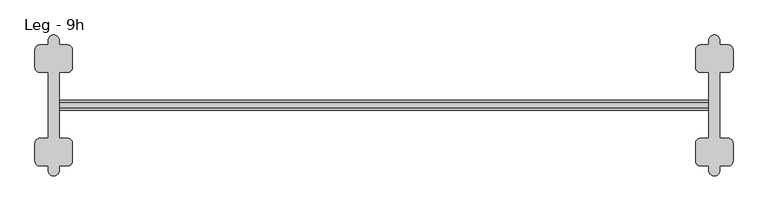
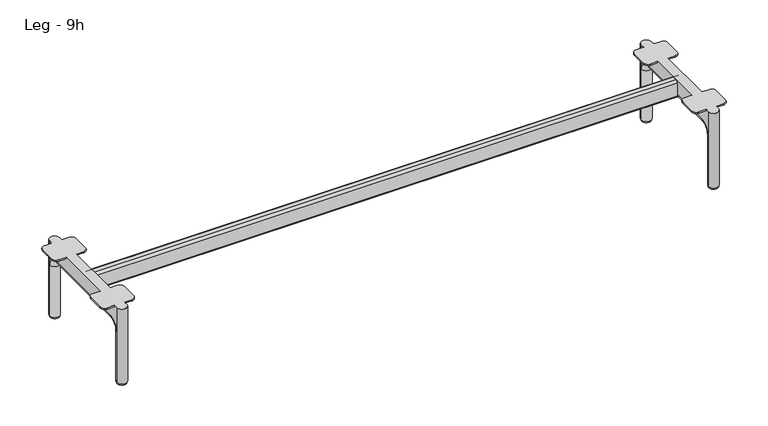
"""IFC4 building model written with IfcOpenShell, lengths in millimetres: furniture geometry, Haworth_BeHold_Leg_Single : Leg - 9h."""

from ifc_helpers import new_model, si_unit, point, frame, frame_2d, origin, origin_with_axes, place, context, project, spatial, polyline, circle_curve, ellipse_curve, trimmed, segment, composite_curve, outline, extrude, source, transform, mapped, element, save
from ifc_brep_helpers import plane_surface, cylinder_surface, revolved_surface, advanced_brep


def leg_9h_4d6a7ffd(model_context):
    return source(origin(), model_context, "Body", "SolidModel", [
        advanced_brep(
        [(-980.7716553, -160.8335954, 188.9677867), (-980.7716553, -127.4960938, 155.6302867), (-980.7716553, -127.4960938, 228.6), (-980.7716553, -138.6085938, 228.6), (-980.7716553, -138.6085938, 224.63125), (-980.7716553, -208.4885295, 224.63125), (-980.7716553, -208.4885295, 228.6), (-980.7716553, -375.7114705, 228.6), (-980.7716553, -375.7114705, 224.63125), (-980.7716553, -445.5914063, 224.63125), (-980.7716553, -445.5914063, 228.6), (-980.7716553, -456.7039063, 228.6), (-980.7716553, -456.7039063, 155.6302867), (-980.7716553, -423.3664063, 188.9677867), (-1009.3466553, -127.4960938, 155.6302867), (-1009.3466553, -160.8335937, 188.9677867), (-1009.3466553, -423.3664063, 188.9677867), (-1009.3466553, -456.7039062, 155.6302867), (-1009.3466553, -456.7039063, 228.6), (-1009.3466553, -445.5914063, 228.6), (-1009.3466553, -445.5914063, 224.63125), (-1009.3466553, -375.7114705, 224.63125), (-1009.3466553, -375.7114705, 228.6), (-1009.3466553, -208.4885295, 228.6), (-1009.3466553, -208.4885295, 224.63125), (-1009.3466553, -138.6085938, 224.63125), (-1009.3466553, -138.6085938, 228.6), (-1009.3466553, -127.4960938, 228.6), (-960.1341553, -445.5914063, 228.6), (-947.4341553, -432.8914063, 228.6), (-947.4341553, -388.5860932, 228.6), (-960.3087781, -375.7114705, 228.6), (-960.3087781, -208.4885295, 228.6), (-947.4341553, -195.6139068, 228.6), (-947.4341553, -151.3085938, 228.6), (-960.1341553, -138.6085938, 228.6), (-1029.9841553, -138.6085938, 228.6), (-1042.6841553, -151.3085938, 228.6), (-1042.6841553, -195.6139068, 228.6), (-1029.8095326, -208.4885295, 228.6), (-1029.8095326, -375.7114705, 228.6), (-1042.6841553, -388.5860932, 228.6), (-1042.6841553, -432.8914063, 228.6), (-1029.9841553, -445.5914063, 228.6), (-980.7716553, -127.4960937, 4.7625), (-1009.3466553, -127.4960937, 4.7625), (-1009.3466553, -456.7039062, 4.7625), (-980.7716553, -456.7039062, 4.7625), (-1029.9841553, -445.5914063, 224.63125), (-1042.6841553, -432.8914063, 224.63125), (-1042.6841553, -388.5860932, 224.63125), (-1029.8095326, -375.7114705, 224.63125), (-960.3087781, -375.7114705, 224.63125), (-947.4341553, -388.5860932, 224.63125), (-947.4341553, -432.8914063, 224.63125), (-960.1341553, -445.5914063, 224.63125), (-960.1341553, -138.6085938, 224.63125), (-947.4341553, -151.3085938, 224.63125), (-947.4341553, -195.6139068, 224.63125), (-960.3087781, -208.4885295, 224.63125), (-1029.8095326, -208.4885295, 224.63125), (-1042.6841553, -195.6139068, 224.63125), (-1042.6841553, -151.3085938, 224.63125), (-1029.9841553, -138.6085938, 224.63125)],
        [
            (0, 1, circle_curve(frame((-980.7716553, -160.8335937, 155.6302867), z_axis=(-1.0, 0.0, 0.0), x_axis=(0.0, 1.0, 0.0)), 33.3375)),
            (1, 2),
            (2, 3),
            (3, 4),
            (4, 5),
            (5, 6),
            (6, 7),
            (7, 8),
            (8, 9),
            (9, 10),
            (10, 11),
            (11, 12),
            (12, 13, circle_curve(frame((-980.7716553, -423.3664063, 155.6302867), z_axis=(-1.0, 0.0, 0.0), x_axis=(0.0, 0.0, 1.0)), 33.3375)),
            (13, 0),
            (14, 15, circle_curve(frame((-1009.3466553, -160.8335937, 155.6302867), z_axis=(1.0, 0.0, 0.0), x_axis=(0.0, 1.0, 0.0)), 33.3375)),
            (15, 16),
            (16, 17, circle_curve(frame((-1009.3466553, -423.3664063, 155.6302867), z_axis=(1.0, 0.0, 0.0), x_axis=(0.0, 0.0, 1.0)), 33.3375)),
            (17, 18),
            (18, 19),
            (19, 20),
            (20, 21),
            (21, 22),
            (22, 23),
            (23, 24),
            (24, 25),
            (25, 26),
            (26, 27),
            (27, 14),
            (28, 29, circle_curve(frame((-960.1341553, -432.8914063, 228.6), z_axis=(0.0, 0.0, 1.0), x_axis=(1.0, 0.0, 0.0)), 12.7)),
            (29, 30),
            (30, 31, circle_curve(frame((-960.3087781, -388.5860932, 228.6), z_axis=(0.0, 0.0, 1.0), x_axis=(1.0, 0.0, 0.0)), 12.8746227)),
            (31, 7),
            (6, 32),
            (32, 33, circle_curve(frame((-960.3087781, -195.6139068, 228.6), z_axis=(0.0, 0.0, 1.0), x_axis=(1.0, 0.0, 0.0)), 12.8746227)),
            (33, 34),
            (34, 35, circle_curve(frame((-960.1341553, -151.3085938, 228.6), z_axis=(0.0, 0.0, 1.0), x_axis=(1.0, 0.0, 0.0)), 12.7)),
            (35, 3),
            (2, 27, circle_curve(frame((-995.0591553, -127.4960938, 228.6), z_axis=(0.0, 0.0, 1.0), x_axis=(1.0, 0.0, 0.0)), 14.2875)),
            (26, 36),
            (36, 37, circle_curve(frame((-1029.9841553, -151.3085938, 228.6), z_axis=(0.0, 0.0, 1.0), x_axis=(1.0, 0.0, 0.0)), 12.7)),
            (37, 38),
            (38, 39, circle_curve(frame((-1029.8095326, -195.6139068, 228.6), z_axis=(0.0, 0.0, 1.0), x_axis=(1.0, 0.0, 0.0)), 12.8746227)),
            (39, 23),
            (22, 40),
            (40, 41, circle_curve(frame((-1029.8095326, -388.5860932, 228.6), z_axis=(0.0, 0.0, 1.0), x_axis=(1.0, 0.0, 0.0)), 12.8746227)),
            (41, 42),
            (42, 43, circle_curve(frame((-1029.9841553, -432.8914063, 228.6), z_axis=(0.0, 0.0, 1.0), x_axis=(1.0, 0.0, 0.0)), 12.7)),
            (43, 19),
            (18, 11, circle_curve(frame((-995.0591553, -456.7039063, 228.6), z_axis=(0.0, 0.0, 1.0), x_axis=(1.0, 0.0, 0.0)), 14.2875)),
            (10, 28),
            (44, 45, circle_curve(frame((-995.0591553, -127.4960937, 4.7625), z_axis=(0.0, 0.0, -1.0), x_axis=(1.0, 0.0, 0.0)), 14.2875)),
            (45, 44, circle_curve(frame((-995.0591553, -127.4960938, 4.7625), z_axis=(0.0, 0.0, -1.0), x_axis=(1.0, 0.0, 0.0)), 14.2875)),
            (44, 1),
            (1, 14, circle_curve(frame((-995.0591553, -127.4960937, 155.6302867), z_axis=(0.0, 0.0, -1.0), x_axis=(1.0, 0.0, 0.0)), 14.2875)),
            (14, 45),
            (0, 15, circle_curve(frame((-995.0591553, -160.8335937, 188.9677867), z_axis=(0.0, 1.0, 0.0), x_axis=(1.0, 0.0, 0.0)), 14.2875)),
            (13, 16, circle_curve(frame((-995.0591553, -423.3664063, 188.9677867), z_axis=(0.0, 1.0, 0.0), x_axis=(1.0, 0.0, 0.0)), 14.2875)),
            (12, 17, circle_curve(frame((-995.0591553, -456.7039062, 155.6302867), z_axis=(0.0, 0.0, 1.0), x_axis=(1.0, 0.0, 0.0)), 14.2875)),
            (46, 47, circle_curve(frame((-995.0591553, -456.7039062, 4.7625), z_axis=(0.0, 0.0, -1.0), x_axis=(1.0, 0.0, 0.0)), 14.2875)),
            (47, 46, circle_curve(frame((-995.0591553, -456.7039063, 4.7625), z_axis=(0.0, 0.0, -1.0), x_axis=(1.0, 0.0, 0.0)), 14.2875)),
            (12, 47),
            (46, 17),
            (48, 49, circle_curve(frame((-1029.9841553, -432.8914063, 224.63125), z_axis=(0.0, 0.0, -1.0), x_axis=(1.0, 0.0, 0.0)), 12.7)),
            (49, 50),
            (50, 51, circle_curve(frame((-1029.8095326, -388.5860932, 224.63125), z_axis=(0.0, 0.0, -1.0), x_axis=(1.0, 0.0, 0.0)), 12.8746227)),
            (51, 21),
            (20, 48),
            (52, 53, circle_curve(frame((-960.3087781, -388.5860932, 224.63125), z_axis=(0.0, 0.0, -1.0), x_axis=(1.0, 0.0, 0.0)), 12.8746227)),
            (53, 54),
            (54, 55, circle_curve(frame((-960.1341553, -432.8914063, 224.63125), z_axis=(0.0, 0.0, -1.0), x_axis=(1.0, 0.0, 0.0)), 12.7)),
            (55, 9),
            (8, 52),
            (43, 48),
            (55, 28),
            (42, 49),
            (41, 50),
            (40, 51),
            (31, 52),
            (30, 53),
            (29, 54),
            (56, 57, circle_curve(frame((-960.1341553, -151.3085938, 224.63125), z_axis=(0.0, 0.0, -1.0), x_axis=(1.0, 0.0, 0.0)), 12.7)),
            (57, 58),
            (58, 59, circle_curve(frame((-960.3087781, -195.6139068, 224.63125), z_axis=(0.0, 0.0, -1.0), x_axis=(1.0, 0.0, 0.0)), 12.8746227)),
            (59, 5),
            (4, 56),
            (60, 61, circle_curve(frame((-1029.8095326, -195.6139068, 224.63125), z_axis=(0.0, 0.0, -1.0), x_axis=(1.0, 0.0, 0.0)), 12.8746227)),
            (61, 62),
            (62, 63, circle_curve(frame((-1029.9841553, -151.3085938, 224.63125), z_axis=(0.0, 0.0, -1.0), x_axis=(1.0, 0.0, 0.0)), 12.7)),
            (63, 25),
            (24, 60),
            (35, 56),
            (63, 36),
            (62, 37),
            (61, 38),
            (60, 39),
            (59, 32),
            (58, 33),
            (57, 34),
        ],
        [
            plane_surface(frame((-980.7716553, -292.1, 0.0), z_axis=(1.0, 0.0, 0.0), x_axis=(0.0, 0.0, 1.0))),
            plane_surface(frame((-1009.3466553, -292.1, 0.0), z_axis=(-1.0, 0.0, 0.0), x_axis=(0.0, 0.0, 1.0))),
            plane_surface(frame((-980.7716553, -127.4960938, 228.6), z_axis=(0.0, 0.0, 1.0), x_axis=(-1.0, 0.0, 0.0))),
            plane_surface(frame((-995.0591553, -141.7835937, 4.7625), z_axis=(0.0, 0.0, -1.0), x_axis=(1.0, 0.0, 0.0))),
            cylinder_surface(frame((-995.0591553, -127.4960937, 4.7625), z_axis=(0.0, 0.0, -1.0), x_axis=(1.0, 0.0, 0.0)), 14.2875),
            revolved_surface(trimmed(ellipse_curve(frame((-995.0591553, -127.4960938, 155.6302867), z_axis=(0.0, 0.0, -1.0), x_axis=(1.0, 0.0, 0.0)), 14.2875, 14.2875), [point((-980.7716553, -127.4960938, 155.6302867))], [point((-1009.3466553, -127.4960938, 155.6302867))], True, "CARTESIAN"), (-995.0591553, -160.8335937, 155.6302867), (1.0, 0.0, 0.0)),
            cylinder_surface(frame((-995.0591553, -160.8335937, 188.9677867), z_axis=(0.0, 1.0, 0.0), x_axis=(1.0, 0.0, 0.0)), 14.2875),
            revolved_surface(trimmed(ellipse_curve(frame((-995.0591553, -423.3664063, 188.9677867), z_axis=(0.0, 1.0, 0.0), x_axis=(1.0, 0.0, 0.0)), 14.2875, 14.2875), [point((-980.7716553, -423.3664063, 188.9677867))], [point((-1009.3466553, -423.3664063, 188.9677867))], True, "CARTESIAN"), (-995.0591553, -423.3664063, 155.6302867), (1.0, 0.0, 0.0)),
            plane_surface(frame((-995.0591553, -442.4164063, 4.7625), z_axis=(0.0, 0.0, -1.0), x_axis=(1.0, 0.0, 0.0))),
            cylinder_surface(frame((-995.0591553, -456.7039062, 155.6302867), z_axis=(0.0, 0.0, 1.0), x_axis=(1.0, 0.0, 0.0)), 14.2875),
            plane_surface(frame((-947.4341553, -432.8914063, 224.63125), z_axis=(0.0, 0.0, -1.0), x_axis=(0.0, -1.0, 0.0))),
            plane_surface(frame((-1029.9841553, -445.5914063, 228.6), z_axis=(0.0, -1.0, 0.0), x_axis=(0.0, 0.0, -1.0))),
            cylinder_surface(frame((-1029.9841553, -432.8914063, 224.63125), z_axis=(0.0, 0.0, 1.0), x_axis=(1.0, 0.0, 0.0)), 12.7),
            plane_surface(frame((-1042.6841553, -388.5860932, 228.6), z_axis=(-1.0, 0.0, 0.0), x_axis=(0.0, 0.0, -1.0))),
            cylinder_surface(frame((-1029.8095326, -388.5860932, 224.63125), z_axis=(0.0, 0.0, 1.0), x_axis=(1.0, 0.0, 0.0)), 12.8746227),
            plane_surface(frame((-960.3087781, -375.7114705, 228.6), z_axis=(0.0, 1.0, 0.0), x_axis=(0.0, 0.0, -1.0))),
            cylinder_surface(frame((-960.3087781, -388.5860932, 224.63125), z_axis=(0.0, 0.0, 1.0), x_axis=(1.0, 0.0, 0.0)), 12.8746227),
            plane_surface(frame((-947.4341553, -432.8914063, 228.6), z_axis=(1.0, 0.0, 0.0), x_axis=(0.0, 0.0, -1.0))),
            cylinder_surface(frame((-960.1341553, -432.8914063, 224.63125), z_axis=(0.0, 0.0, 1.0), x_axis=(1.0, 0.0, 0.0)), 12.7),
            plane_surface(frame((-1029.9841553, -138.6085938, 224.63125), z_axis=(0.0, 0.0, -1.0), x_axis=(1.0, 0.0, 0.0))),
            plane_surface(frame((-960.1341553, -138.6085938, 228.6), z_axis=(0.0, 1.0, 0.0), x_axis=(0.0, 0.0, -1.0))),
            cylinder_surface(frame((-1029.9841553, -151.3085938, 224.63125), z_axis=(0.0, 0.0, 1.0), x_axis=(1.0, 0.0, 0.0)), 12.7),
            plane_surface(frame((-1042.6841553, -151.3085938, 228.6), z_axis=(-1.0, 0.0, 0.0), x_axis=(0.0, 0.0, -1.0))),
            cylinder_surface(frame((-1029.8095326, -195.6139068, 224.63125), z_axis=(0.0, 0.0, 1.0), x_axis=(1.0, 0.0, 0.0)), 12.8746227),
            plane_surface(frame((-1029.8095326, -208.4885295, 228.6), z_axis=(0.0, -1.0, 0.0), x_axis=(0.0, 0.0, -1.0))),
            cylinder_surface(frame((-960.3087781, -195.6139068, 224.63125), z_axis=(0.0, 0.0, 1.0), x_axis=(1.0, 0.0, 0.0)), 12.8746227),
            plane_surface(frame((-947.4341553, -195.6139068, 228.6), z_axis=(1.0, 0.0, 0.0), x_axis=(0.0, 0.0, -1.0))),
            cylinder_surface(frame((-960.1341553, -151.3085938, 224.63125), z_axis=(0.0, 0.0, 1.0), x_axis=(1.0, 0.0, 0.0)), 12.7),
            cylinder_surface(frame((-995.0591553, -456.7039063, 4.7625), z_axis=(0.0, 0.0, 1.0), x_axis=(1.0, 0.0, 0.0)), 14.2875),
            cylinder_surface(frame((-995.0591553, -127.4960938, 4.7625), z_axis=(0.0, 0.0, 1.0), x_axis=(1.0, 0.0, 0.0)), 14.2875),
        ],
        [
            (0, [[1, 2, 3, 4, 5, 6, 7, 8, 9, 10, 11, 12, 13, 14]]),
            (1, [[15, 16, 17, 18, 19, 20, 21, 22, 23, 24, 25, 26, 27, 28]]),
            (2, [[29, 30, 31, 32, -7, 33, 34, 35, 36, 37, -3, 38, -27, 39, 40, 41, 42, 43, -23, 44, 45, 46, 47, 48, -19, 49, -11, 50]]),
            (3, [[51, 52]]),
            (4, [[-51, 53, 54, 55]]),
            (5, [[-54, -1, 56, -15]]),
            (6, [[-56, -14, 57, -16]]),
            (7, [[-57, -13, 58, -17]]),
            (8, [[59, 60]]),
            (9, [[-58, 61, -59, 62]]),
            (10, [[63, 64, 65, 66, -21, 67]]),
            (10, [[68, 69, 70, 71, -9, 72]]),
            (11, [[73, -67, -20, -48]]),
            (11, [[74, -50, -10, -71]]),
            (12, [[-47, 75, -63, -73]]),
            (13, [[-46, 76, -64, -75]]),
            (14, [[-45, 77, -65, -76]]),
            (15, [[-77, -44, -22, -66]]),
            (15, [[78, -72, -8, -32]]),
            (16, [[-31, 79, -68, -78]]),
            (17, [[-30, 80, -69, -79]]),
            (18, [[-29, -74, -70, -80]]),
            (19, [[81, 82, 83, 84, -5, 85]]),
            (19, [[86, 87, 88, 89, -25, 90]]),
            (20, [[91, -85, -4, -37]]),
            (20, [[92, -39, -26, -89]]),
            (21, [[-40, -92, -88, 93]]),
            (22, [[-41, -93, -87, 94]]),
            (23, [[-42, -94, -86, 95]]),
            (24, [[-95, -90, -24, -43]]),
            (24, [[96, -33, -6, -84]]),
            (25, [[-34, -96, -83, 97]]),
            (26, [[-35, -97, -82, 98]]),
            (27, [[-36, -98, -81, -91]]),
            (28, [[-49, -18, -62, -60, -61, -12]]),
            (29, [[-38, -2, -53, -52, -55, -28]]),
        ],
    ),
        extrude(outline(composite_curve([segment(trimmed(circle_curve(frame_2d((-995.0591553, -127.4960938)), 12.7044571), [point((-1007.7636124, -127.4960938))], [point((-982.3546982, -127.4960938))], False, "CARTESIAN"), True, "CONTINUOUS"), segment(trimmed(circle_curve(frame_2d((-995.0591553, -127.4960938)), 12.7044571), [point((-982.3546982, -127.4960938))], [point((-1007.7636124, -127.4960938))], False, "CARTESIAN"), True, "CONTINUOUS")], self_intersect=False)), origin_with_axes(), (0.0, 0.0, 1.0), 4.7625),
        extrude(outline(composite_curve([segment(trimmed(circle_curve(frame_2d((-995.0591553, -456.7039063)), 12.7044571), [point((-1007.7636124, -456.7039063))], [point((-982.3546982, -456.7039063))], False, "CARTESIAN"), True, "CONTINUOUS"), segment(trimmed(circle_curve(frame_2d((-995.0591553, -456.7039063)), 12.7044571), [point((-982.3546982, -456.7039063))], [point((-1007.7636124, -456.7039063))], False, "CARTESIAN"), True, "CONTINUOUS")], self_intersect=False)), origin_with_axes(), (0.0, 0.0, 1.0), 4.7625),
        advanced_brep(
        [(695.6283447, -160.8335954, 188.9677867), (695.6283447, -127.4960938, 155.6302867), (695.6283447, -127.4960938, 228.6), (695.6283447, -138.6085938, 228.6), (695.6283447, -138.6085938, 224.63125), (695.6283447, -208.4885295, 224.63125), (695.6283447, -208.4885295, 228.6), (695.6283447, -375.7114705, 228.6), (695.6283447, -375.7114705, 224.63125), (695.6283447, -445.5914063, 224.63125), (695.6283447, -445.5914063, 228.6), (695.6283447, -456.7039063, 228.6), (695.6283447, -456.7039063, 155.6302867), (695.6283447, -423.3664063, 188.9677867), (667.0533447, -127.4960938, 155.6302867), (667.0533447, -160.8335937, 188.9677867), (667.0533447, -423.3664063, 188.9677867), (667.0533447, -456.7039062, 155.6302867), (667.0533447, -456.7039063, 228.6), (667.0533447, -445.5914063, 228.6), (667.0533447, -445.5914063, 224.63125), (667.0533447, -375.7114705, 224.63125), (667.0533447, -375.7114705, 228.6), (667.0533447, -208.4885295, 228.6), (667.0533447, -208.4885295, 224.63125), (667.0533447, -138.6085938, 224.63125), (667.0533447, -138.6085938, 228.6), (667.0533447, -127.4960938, 228.6), (716.2658447, -445.5914063, 228.6), (728.9658447, -432.8914063, 228.6), (728.9658447, -388.5860932, 228.6), (716.0912219, -375.7114705, 228.6), (716.0912219, -208.4885295, 228.6), (728.9658447, -195.6139068, 228.6), (728.9658447, -151.3085938, 228.6), (716.2658447, -138.6085938, 228.6), (646.4158447, -138.6085938, 228.6), (633.7158447, -151.3085938, 228.6), (633.7158447, -195.6139068, 228.6), (646.5904674, -208.4885295, 228.6), (646.5904674, -375.7114705, 228.6), (633.7158447, -388.5860932, 228.6), (633.7158447, -432.8914063, 228.6), (646.4158447, -445.5914063, 228.6), (695.6283447, -127.4960937, 4.7625), (667.0533447, -127.4960937, 4.7625), (667.0533447, -456.7039062, 4.7625), (695.6283447, -456.7039062, 4.7625), (646.4158447, -445.5914063, 224.63125), (633.7158447, -432.8914063, 224.63125), (633.7158447, -388.5860932, 224.63125), (646.5904674, -375.7114705, 224.63125), (716.0912219, -375.7114705, 224.63125), (728.9658447, -388.5860932, 224.63125), (728.9658447, -432.8914063, 224.63125), (716.2658447, -445.5914063, 224.63125), (716.2658447, -138.6085938, 224.63125), (728.9658447, -151.3085938, 224.63125), (728.9658447, -195.6139068, 224.63125), (716.0912219, -208.4885295, 224.63125), (646.5904674, -208.4885295, 224.63125), (633.7158447, -195.6139068, 224.63125), (633.7158447, -151.3085938, 224.63125), (646.4158447, -138.6085938, 224.63125)],
        [
            (0, 1, circle_curve(frame((695.6283447, -160.8335937, 155.6302867), z_axis=(-1.0, 0.0, 0.0), x_axis=(0.0, 1.0, 0.0)), 33.3375)),
            (1, 2),
            (2, 3),
            (3, 4),
            (4, 5),
            (5, 6),
            (6, 7),
            (7, 8),
            (8, 9),
            (9, 10),
            (10, 11),
            (11, 12),
            (12, 13, circle_curve(frame((695.6283447, -423.3664063, 155.6302867), z_axis=(-1.0, 0.0, 0.0), x_axis=(0.0, 0.0, 1.0)), 33.3375)),
            (13, 0),
            (14, 15, circle_curve(frame((667.0533447, -160.8335937, 155.6302867), z_axis=(1.0, 0.0, 0.0), x_axis=(0.0, 1.0, 0.0)), 33.3375)),
            (15, 16),
            (16, 17, circle_curve(frame((667.0533447, -423.3664063, 155.6302867), z_axis=(1.0, 0.0, 0.0), x_axis=(0.0, 0.0, 1.0)), 33.3375)),
            (17, 18),
            (18, 19),
            (19, 20),
            (20, 21),
            (21, 22),
            (22, 23),
            (23, 24),
            (24, 25),
            (25, 26),
            (26, 27),
            (27, 14),
            (28, 29, circle_curve(frame((716.2658447, -432.8914063, 228.6), z_axis=(0.0, 0.0, 1.0), x_axis=(1.0, 0.0, 0.0)), 12.7)),
            (29, 30),
            (30, 31, circle_curve(frame((716.0912219, -388.5860932, 228.6), z_axis=(0.0, 0.0, 1.0), x_axis=(1.0, 0.0, 0.0)), 12.8746227)),
            (31, 7),
            (6, 32),
            (32, 33, circle_curve(frame((716.0912219, -195.6139068, 228.6), z_axis=(0.0, 0.0, 1.0), x_axis=(1.0, 0.0, 0.0)), 12.8746227)),
            (33, 34),
            (34, 35, circle_curve(frame((716.2658447, -151.3085938, 228.6), z_axis=(0.0, 0.0, 1.0), x_axis=(1.0, 0.0, 0.0)), 12.7)),
            (35, 3),
            (2, 27, circle_curve(frame((681.3408447, -127.4960938, 228.6), z_axis=(0.0, 0.0, 1.0), x_axis=(1.0, 0.0, 0.0)), 14.2875)),
            (26, 36),
            (36, 37, circle_curve(frame((646.4158447, -151.3085938, 228.6), z_axis=(0.0, 0.0, 1.0), x_axis=(1.0, 0.0, 0.0)), 12.7)),
            (37, 38),
            (38, 39, circle_curve(frame((646.5904674, -195.6139068, 228.6), z_axis=(0.0, 0.0, 1.0), x_axis=(1.0, 0.0, 0.0)), 12.8746227)),
            (39, 23),
            (22, 40),
            (40, 41, circle_curve(frame((646.5904674, -388.5860932, 228.6), z_axis=(0.0, 0.0, 1.0), x_axis=(1.0, 0.0, 0.0)), 12.8746227)),
            (41, 42),
            (42, 43, circle_curve(frame((646.4158447, -432.8914063, 228.6), z_axis=(0.0, 0.0, 1.0), x_axis=(1.0, 0.0, 0.0)), 12.7)),
            (43, 19),
            (18, 11, circle_curve(frame((681.3408447, -456.7039063, 228.6), z_axis=(0.0, 0.0, 1.0), x_axis=(1.0, 0.0, 0.0)), 14.2875)),
            (10, 28),
            (44, 45, circle_curve(frame((681.3408447, -127.4960937, 4.7625), z_axis=(0.0, 0.0, -1.0), x_axis=(1.0, 0.0, 0.0)), 14.2875)),
            (45, 44, circle_curve(frame((681.3408447, -127.4960938, 4.7625), z_axis=(0.0, 0.0, -1.0), x_axis=(1.0, 0.0, 0.0)), 14.2875)),
            (44, 1),
            (1, 14, circle_curve(frame((681.3408447, -127.4960937, 155.6302867), z_axis=(0.0, 0.0, -1.0), x_axis=(1.0, 0.0, 0.0)), 14.2875)),
            (14, 45),
            (0, 15, circle_curve(frame((681.3408447, -160.8335937, 188.9677867), z_axis=(0.0, 1.0, 0.0), x_axis=(1.0, 0.0, 0.0)), 14.2875)),
            (13, 16, circle_curve(frame((681.3408447, -423.3664063, 188.9677867), z_axis=(0.0, 1.0, 0.0), x_axis=(1.0, 0.0, 0.0)), 14.2875)),
            (12, 17, circle_curve(frame((681.3408447, -456.7039062, 155.6302867), z_axis=(0.0, 0.0, 1.0), x_axis=(1.0, 0.0, 0.0)), 14.2875)),
            (46, 47, circle_curve(frame((681.3408447, -456.7039062, 4.7625), z_axis=(0.0, 0.0, -1.0), x_axis=(1.0, 0.0, 0.0)), 14.2875)),
            (47, 46, circle_curve(frame((681.3408447, -456.7039063, 4.7625), z_axis=(0.0, 0.0, -1.0), x_axis=(1.0, 0.0, 0.0)), 14.2875)),
            (12, 47),
            (46, 17),
            (48, 49, circle_curve(frame((646.4158447, -432.8914063, 224.63125), z_axis=(0.0, 0.0, -1.0), x_axis=(1.0, 0.0, 0.0)), 12.7)),
            (49, 50),
            (50, 51, circle_curve(frame((646.5904674, -388.5860932, 224.63125), z_axis=(0.0, 0.0, -1.0), x_axis=(1.0, 0.0, 0.0)), 12.8746227)),
            (51, 21),
            (20, 48),
            (52, 53, circle_curve(frame((716.0912219, -388.5860932, 224.63125), z_axis=(0.0, 0.0, -1.0), x_axis=(1.0, 0.0, 0.0)), 12.8746227)),
            (53, 54),
            (54, 55, circle_curve(frame((716.2658447, -432.8914063, 224.63125), z_axis=(0.0, 0.0, -1.0), x_axis=(1.0, 0.0, 0.0)), 12.7)),
            (55, 9),
            (8, 52),
            (43, 48),
            (55, 28),
            (42, 49),
            (41, 50),
            (40, 51),
            (31, 52),
            (30, 53),
            (29, 54),
            (56, 57, circle_curve(frame((716.2658447, -151.3085938, 224.63125), z_axis=(0.0, 0.0, -1.0), x_axis=(1.0, 0.0, 0.0)), 12.7)),
            (57, 58),
            (58, 59, circle_curve(frame((716.0912219, -195.6139068, 224.63125), z_axis=(0.0, 0.0, -1.0), x_axis=(1.0, 0.0, 0.0)), 12.8746227)),
            (59, 5),
            (4, 56),
            (60, 61, circle_curve(frame((646.5904674, -195.6139068, 224.63125), z_axis=(0.0, 0.0, -1.0), x_axis=(1.0, 0.0, 0.0)), 12.8746227)),
            (61, 62),
            (62, 63, circle_curve(frame((646.4158447, -151.3085938, 224.63125), z_axis=(0.0, 0.0, -1.0), x_axis=(1.0, 0.0, 0.0)), 12.7)),
            (63, 25),
            (24, 60),
            (35, 56),
            (63, 36),
            (62, 37),
            (61, 38),
            (60, 39),
            (59, 32),
            (58, 33),
            (57, 34),
        ],
        [
            plane_surface(frame((695.6283447, -292.1, 0.0), z_axis=(1.0, 0.0, 0.0), x_axis=(0.0, 0.0, 1.0))),
            plane_surface(frame((667.0533447, -292.1, 0.0), z_axis=(-1.0, 0.0, 0.0), x_axis=(0.0, 0.0, 1.0))),
            plane_surface(frame((695.6283447, -127.4960938, 228.6), z_axis=(0.0, 0.0, 1.0), x_axis=(-1.0, 0.0, 0.0))),
            plane_surface(frame((681.3408447, -141.7835937, 4.7625), z_axis=(0.0, 0.0, -1.0), x_axis=(1.0, 0.0, 0.0))),
            cylinder_surface(frame((681.3408447, -127.4960937, 4.7625), z_axis=(0.0, 0.0, -1.0), x_axis=(1.0, 0.0, 0.0)), 14.2875),
            revolved_surface(trimmed(ellipse_curve(frame((681.3408447, -127.4960938, 155.6302867), z_axis=(0.0, 0.0, -1.0), x_axis=(1.0, 0.0, 0.0)), 14.2875, 14.2875), [point((695.6283447, -127.4960938, 155.6302867))], [point((667.0533447, -127.4960938, 155.6302867))], True, "CARTESIAN"), (681.3408447, -160.8335937, 155.6302867), (1.0, 0.0, 0.0)),
            cylinder_surface(frame((681.3408447, -160.8335937, 188.9677867), z_axis=(0.0, 1.0, 0.0), x_axis=(1.0, 0.0, 0.0)), 14.2875),
            revolved_surface(trimmed(ellipse_curve(frame((681.3408447, -423.3664063, 188.9677867), z_axis=(0.0, 1.0, 0.0), x_axis=(1.0, 0.0, 0.0)), 14.2875, 14.2875), [point((695.6283447, -423.3664063, 188.9677867))], [point((667.0533447, -423.3664063, 188.9677867))], True, "CARTESIAN"), (681.3408447, -423.3664063, 155.6302867), (1.0, 0.0, 0.0)),
            plane_surface(frame((681.3408447, -442.4164063, 4.7625), z_axis=(0.0, 0.0, -1.0), x_axis=(1.0, 0.0, 0.0))),
            cylinder_surface(frame((681.3408447, -456.7039062, 155.6302867), z_axis=(0.0, 0.0, 1.0), x_axis=(1.0, 0.0, 0.0)), 14.2875),
            plane_surface(frame((728.9658447, -432.8914063, 224.63125), z_axis=(0.0, 0.0, -1.0), x_axis=(0.0, -1.0, 0.0))),
            plane_surface(frame((646.4158447, -445.5914063, 228.6), z_axis=(0.0, -1.0, 0.0), x_axis=(0.0, 0.0, -1.0))),
            cylinder_surface(frame((646.4158447, -432.8914063, 224.63125), z_axis=(0.0, 0.0, 1.0), x_axis=(1.0, 0.0, 0.0)), 12.7),
            plane_surface(frame((633.7158447, -388.5860932, 228.6), z_axis=(-1.0, 0.0, 0.0), x_axis=(0.0, 0.0, -1.0))),
            cylinder_surface(frame((646.5904674, -388.5860932, 224.63125), z_axis=(0.0, 0.0, 1.0), x_axis=(1.0, 0.0, 0.0)), 12.8746227),
            plane_surface(frame((716.0912219, -375.7114705, 228.6), z_axis=(0.0, 1.0, 0.0), x_axis=(0.0, 0.0, -1.0))),
            cylinder_surface(frame((716.0912219, -388.5860932, 224.63125), z_axis=(0.0, 0.0, 1.0), x_axis=(1.0, 0.0, 0.0)), 12.8746227),
            plane_surface(frame((728.9658447, -432.8914063, 228.6), z_axis=(1.0, 0.0, 0.0), x_axis=(0.0, 0.0, -1.0))),
            cylinder_surface(frame((716.2658447, -432.8914063, 224.63125), z_axis=(0.0, 0.0, 1.0), x_axis=(1.0, 0.0, 0.0)), 12.7),
            plane_surface(frame((646.4158447, -138.6085938, 224.63125), z_axis=(0.0, 0.0, -1.0), x_axis=(1.0, 0.0, 0.0))),
            plane_surface(frame((716.2658447, -138.6085938, 228.6), z_axis=(0.0, 1.0, 0.0), x_axis=(0.0, 0.0, -1.0))),
            cylinder_surface(frame((646.4158447, -151.3085938, 224.63125), z_axis=(0.0, 0.0, 1.0), x_axis=(1.0, 0.0, 0.0)), 12.7),
            plane_surface(frame((633.7158447, -151.3085938, 228.6), z_axis=(-1.0, 0.0, 0.0), x_axis=(0.0, 0.0, -1.0))),
            cylinder_surface(frame((646.5904674, -195.6139068, 224.63125), z_axis=(0.0, 0.0, 1.0), x_axis=(1.0, 0.0, 0.0)), 12.8746227),
            plane_surface(frame((646.5904674, -208.4885295, 228.6), z_axis=(0.0, -1.0, 0.0), x_axis=(0.0, 0.0, -1.0))),
            cylinder_surface(frame((716.0912219, -195.6139068, 224.63125), z_axis=(0.0, 0.0, 1.0), x_axis=(1.0, 0.0, 0.0)), 12.8746227),
            plane_surface(frame((728.9658447, -195.6139068, 228.6), z_axis=(1.0, 0.0, 0.0), x_axis=(0.0, 0.0, -1.0))),
            cylinder_surface(frame((716.2658447, -151.3085938, 224.63125), z_axis=(0.0, 0.0, 1.0), x_axis=(1.0, 0.0, 0.0)), 12.7),
            cylinder_surface(frame((681.3408447, -456.7039063, 4.7625), z_axis=(0.0, 0.0, 1.0), x_axis=(1.0, 0.0, 0.0)), 14.2875),
            cylinder_surface(frame((681.3408447, -127.4960938, 4.7625), z_axis=(0.0, 0.0, 1.0), x_axis=(1.0, 0.0, 0.0)), 14.2875),
        ],
        [
            (0, [[1, 2, 3, 4, 5, 6, 7, 8, 9, 10, 11, 12, 13, 14]]),
            (1, [[15, 16, 17, 18, 19, 20, 21, 22, 23, 24, 25, 26, 27, 28]]),
            (2, [[29, 30, 31, 32, -7, 33, 34, 35, 36, 37, -3, 38, -27, 39, 40, 41, 42, 43, -23, 44, 45, 46, 47, 48, -19, 49, -11, 50]]),
            (3, [[51, 52]]),
            (4, [[-51, 53, 54, 55]]),
            (5, [[-54, -1, 56, -15]]),
            (6, [[-56, -14, 57, -16]]),
            (7, [[-57, -13, 58, -17]]),
            (8, [[59, 60]]),
            (9, [[-58, 61, -59, 62]]),
            (10, [[63, 64, 65, 66, -21, 67]]),
            (10, [[68, 69, 70, 71, -9, 72]]),
            (11, [[73, -67, -20, -48]]),
            (11, [[74, -50, -10, -71]]),
            (12, [[-47, 75, -63, -73]]),
            (13, [[-46, 76, -64, -75]]),
            (14, [[-45, 77, -65, -76]]),
            (15, [[-77, -44, -22, -66]]),
            (15, [[78, -72, -8, -32]]),
            (16, [[-31, 79, -68, -78]]),
            (17, [[-30, 80, -69, -79]]),
            (18, [[-29, -74, -70, -80]]),
            (19, [[81, 82, 83, 84, -5, 85]]),
            (19, [[86, 87, 88, 89, -25, 90]]),
            (20, [[91, -85, -4, -37]]),
            (20, [[92, -39, -26, -89]]),
            (21, [[-40, -92, -88, 93]]),
            (22, [[-41, -93, -87, 94]]),
            (23, [[-42, -94, -86, 95]]),
            (24, [[-95, -90, -24, -43]]),
            (24, [[96, -33, -6, -84]]),
            (25, [[-34, -96, -83, 97]]),
            (26, [[-35, -97, -82, 98]]),
            (27, [[-36, -98, -81, -91]]),
            (28, [[-49, -18, -62, -60, -61, -12]]),
            (29, [[-38, -2, -53, -52, -55, -28]]),
        ],
    ),
        extrude(outline(composite_curve([segment(trimmed(circle_curve(frame_2d((681.3408447, -127.4960938)), 12.7044571), [point((668.6363876, -127.4960938))], [point((694.0453018, -127.4960938))], False, "CARTESIAN"), True, "CONTINUOUS"), segment(trimmed(circle_curve(frame_2d((681.3408447, -127.4960938)), 12.7044571), [point((694.0453018, -127.4960938))], [point((668.6363876, -127.4960938))], False, "CARTESIAN"), True, "CONTINUOUS")], self_intersect=False)), origin_with_axes(), (0.0, 0.0, 1.0), 4.7625),
        extrude(outline(composite_curve([segment(trimmed(circle_curve(frame_2d((681.3408447, -456.7039063)), 12.7044571), [point((668.6363876, -456.7039063))], [point((694.0453018, -456.7039063))], False, "CARTESIAN"), True, "CONTINUOUS"), segment(trimmed(circle_curve(frame_2d((681.3408447, -456.7039063)), 12.7044571), [point((694.0453018, -456.7039063))], [point((668.6363876, -456.7039063))], False, "CARTESIAN"), True, "CONTINUOUS")], self_intersect=False)), origin_with_axes(), (0.0, 0.0, 1.0), 4.7625),
        extrude(outline(composite_curve([segment(trimmed(circle_curve(frame_2d((-285.7500121, 222.25)), 6.35), [point((-285.7500121, 228.6))], [point((-279.4000121, 222.25))], False, "CARTESIAN"), True, "CONTINUOUS"), segment(polyline([(-279.4000121, 222.25), (-279.4000121, 184.1976261)]), True, "CONTINUOUS"), segment(trimmed(circle_curve(frame_2d((-285.7500121, 184.1976261)), 6.35), [point((-279.4000121, 184.1976261))], [point((-285.7500121, 177.8476261))], False, "CARTESIAN"), True, "CONTINUOUS"), segment(polyline([(-285.7500121, 177.8476261), (-298.4500242, 177.8476261)]), True, "CONTINUOUS"), segment(trimmed(circle_curve(frame_2d((-298.4500242, 184.1976261)), 6.35), [point((-298.4500242, 177.8476261))], [point((-304.8000242, 184.1976261))], False, "CARTESIAN"), True, "CONTINUOUS"), segment(polyline([(-304.8000242, 184.1976261), (-304.8000242, 222.25)]), True, "CONTINUOUS"), segment(trimmed(circle_curve(frame_2d((-298.4500242, 222.25)), 6.35), [point((-304.8000242, 222.25))], [point((-298.4500242, 228.6))], False, "CARTESIAN"), True, "CONTINUOUS"), segment(polyline([(-298.4500242, 228.6), (-285.7500121, 228.6)]), True, "CONTINUOUS")], self_intersect=False)), frame((-995.0591553, 0.0, 0.0), z_axis=(1.0, 0.0, 0.0), x_axis=(0.0, 1.0, 0.0)), (0.0, 0.0, 1.0), 1676.4),
    ])


if __name__ == "__main__":
    model = new_model("IFC4")
    model_context = context("Model", 3, world=origin())
    ifc_project = project(units=[si_unit("LENGTHUNIT", "METRE", prefix="MILLI")], contexts=[model_context])
    site = spatial("IfcSite", under=ifc_project)
    building = spatial("IfcBuilding", under=site)
    placement = place(None, origin())
    leg_9h_shape = leg_9h_4d6a7ffd(model_context)
    element("IfcFurniture", 1, ObjectType="Haworth_BeHold_Leg_Single : Leg - 9h", at=placement, inside=building, context=model_context, shape_type="MappedRepresentation", body=[
        mapped(leg_9h_shape, transform((0.0, 0.0, 0.0), x_axis=(1.0, 0.0, 0.0), y_axis=(0.0, 1.0, 0.0), z_axis=(0.0, 0.0, 1.0))),
    ])
    save(model, "model.ifc")
